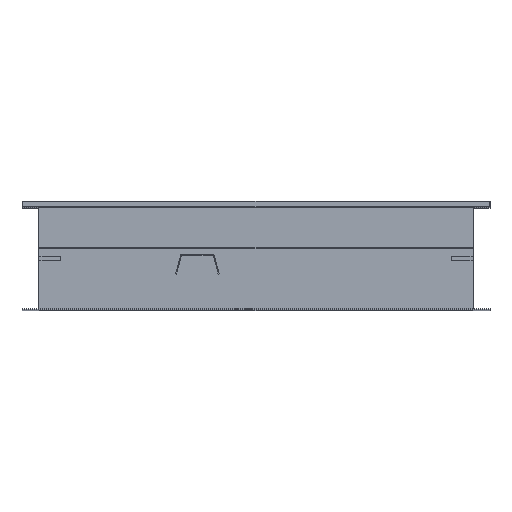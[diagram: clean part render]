
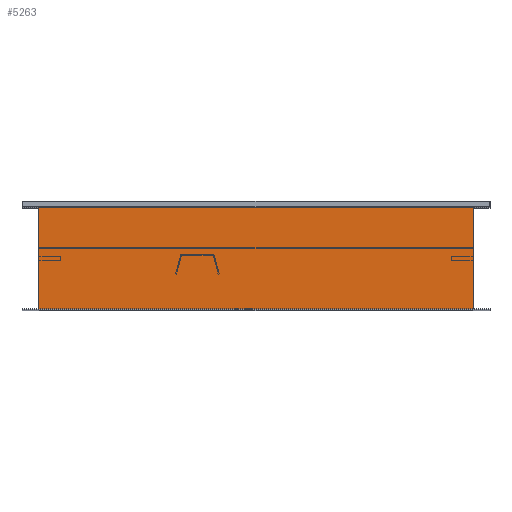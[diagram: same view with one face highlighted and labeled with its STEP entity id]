
A CAD part, top view. The second image highlights one B-rep face of the part: STEP entity #5263.
In plain terms, the highlighted planar face has unit normal (0, 0, 1).
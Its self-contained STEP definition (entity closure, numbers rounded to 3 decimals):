
#1895=DIRECTION('',(1.,0.,0.));
#1896=VECTOR('',#1895,1004.);
#1897=CARTESIAN_POINT('',(-502.,-248.,502.));
#1898=LINE('',#1897,#1896);
#1903=DIRECTION('',(0.,-1.,0.));
#1904=VECTOR('',#1903,234.);
#1905=CARTESIAN_POINT('',(-502.,-14.,502.));
#1906=LINE('',#1905,#1904);
#1907=DIRECTION('',(1.,0.,0.));
#1908=VECTOR('',#1907,1004.);
#1909=CARTESIAN_POINT('',(-502.,-14.,502.));
#1910=LINE('',#1909,#1908);
#1911=DIRECTION('',(0.,-1.,0.));
#1912=VECTOR('',#1911,234.);
#1913=CARTESIAN_POINT('',(502.,-14.,502.));
#1914=LINE('',#1913,#1912);
#2215=CARTESIAN_POINT('',(-502.,-14.,502.));
#2216=CARTESIAN_POINT('',(-502.,-248.,502.));
#2217=VERTEX_POINT('',#2215);
#2218=VERTEX_POINT('',#2216);
#2235=CARTESIAN_POINT('',(502.,-14.,502.));
#2236=CARTESIAN_POINT('',(502.,-248.,502.));
#2237=VERTEX_POINT('',#2235);
#2238=VERTEX_POINT('',#2236);
#5251=CARTESIAN_POINT('',(-500.,-14.,502.));
#5252=DIRECTION('',(0.,0.,1.));
#5253=DIRECTION('',(0.,-1.,0.));
#5254=AXIS2_PLACEMENT_3D('',#5251,#5252,#5253);
#5255=PLANE('',#5254);
#5256=ORIENTED_EDGE('',*,*,#2855,.F.);
#5257=ORIENTED_EDGE('',*,*,#2842,.T.);
#5259=ORIENTED_EDGE('',*,*,#5258,.T.);
#5260=ORIENTED_EDGE('',*,*,#5244,.F.);
#5261=EDGE_LOOP('',(#5256,#5257,#5259,#5260));
#5262=FACE_OUTER_BOUND('',#5261,.F.);
#2842=EDGE_CURVE('',#2217,#2237,#1910,.T.);
#2855=EDGE_CURVE('',#2217,#2218,#1906,.T.);
#5244=EDGE_CURVE('',#2218,#2238,#1898,.T.);
#5258=EDGE_CURVE('',#2237,#2238,#1914,.T.);
#5263=ADVANCED_FACE('',(#5262),#5255,.T.);
